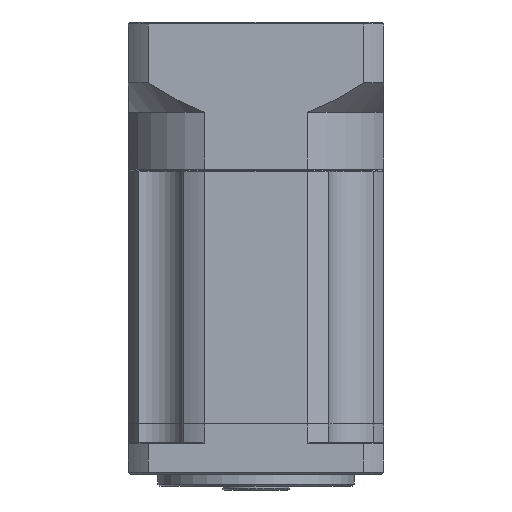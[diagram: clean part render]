
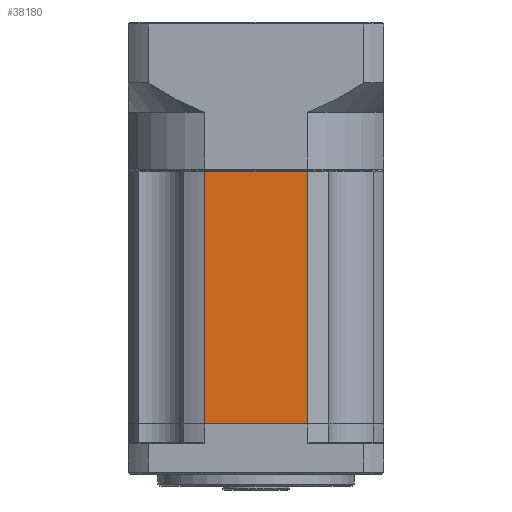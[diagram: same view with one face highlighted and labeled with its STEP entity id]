
A CAD part, front view. The second image highlights one B-rep face of the part: STEP entity #38180.
In plain terms, the highlighted planar face has unit normal (0, -1, 0).
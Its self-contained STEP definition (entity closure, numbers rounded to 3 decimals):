
#1851 = CARTESIAN_POINT ( 'NONE',  ( -43.944, -7.96, -74.343 ) ) ;
#4831 = CARTESIAN_POINT ( 'NONE',  ( -43.944, -7.96, -74.343 ) ) ;
#24134 = CARTESIAN_POINT ( 'NONE',  ( -43.944, -7.96, -10.243 ) ) ;
#30450 = EDGE_LOOP ( 'NONE', ( #102664, #110833, #32317, #98007 ) ) ;
#31893 = LINE ( 'NONE', #1851, #50291 ) ;
#32317 = ORIENTED_EDGE ( 'NONE', *, *, #75244, .T. ) ;
#32559 = VERTEX_POINT ( 'NONE', #24134 ) ;
#33729 = VECTOR ( 'NONE', #69071, 1000. ) ;
#35659 = DIRECTION ( 'NONE',  ( 0., 1., 0. ) ) ;
#37340 = AXIS2_PLACEMENT_3D ( 'NONE', #89879, #35659, #88714 ) ;
#38180 = ADVANCED_FACE ( 'NONE', ( #81317 ), #108138, .F. ) ;
#40418 = CARTESIAN_POINT ( 'NONE',  ( -69.924, -7.96, -10.243 ) ) ;
#42199 = DIRECTION ( 'NONE',  ( 0., 0., -1. ) ) ;
#48339 = DIRECTION ( 'NONE',  ( -1., 0., 0. ) ) ;
#50291 = VECTOR ( 'NONE', #83816, 1000. ) ;
#51920 = VERTEX_POINT ( 'NONE', #59660 ) ;
#54396 = VECTOR ( 'NONE', #48339, 1000. ) ;
#59660 = CARTESIAN_POINT ( 'NONE',  ( -69.924, -7.96, -10.243 ) ) ;
#62066 = EDGE_CURVE ( 'NONE', #32559, #111360, #107094, .T. ) ;
#62432 = EDGE_CURVE ( 'NONE', #98520, #111360, #31893, .T. ) ;
#69071 = DIRECTION ( 'NONE',  ( 0., 0., -1. ) ) ;
#75244 = EDGE_CURVE ( 'NONE', #51920, #98520, #81912, .T. ) ;
#79409 = CARTESIAN_POINT ( 'NONE',  ( -43.944, -7.96, -10.043 ) ) ;
#81317 = FACE_OUTER_BOUND ( 'NONE', #30450, .T. ) ;
#81912 = LINE ( 'NONE', #86844, #33729 ) ;
#83816 = DIRECTION ( 'NONE',  ( 1., 0., 0. ) ) ;
#86844 = CARTESIAN_POINT ( 'NONE',  ( -69.924, -7.96, -10.043 ) ) ;
#88714 = DIRECTION ( 'NONE',  ( 0., 0., 1. ) ) ;
#89879 = CARTESIAN_POINT ( 'NONE',  ( -43.944, -7.96, -10.043 ) ) ;
#92627 = CARTESIAN_POINT ( 'NONE',  ( -69.924, -7.96, -74.343 ) ) ;
#98007 = ORIENTED_EDGE ( 'NONE', *, *, #62432, .T. ) ;
#98520 = VERTEX_POINT ( 'NONE', #92627 ) ;
#101215 = LINE ( 'NONE', #40418, #54396 ) ;
#102664 = ORIENTED_EDGE ( 'NONE', *, *, #62066, .F. ) ;
#107094 = LINE ( 'NONE', #79409, #115633 ) ;
#108138 = PLANE ( 'NONE',  #37340 ) ;
#110833 = ORIENTED_EDGE ( 'NONE', *, *, #116808, .T. ) ;
#111360 = VERTEX_POINT ( 'NONE', #4831 ) ;
#115633 = VECTOR ( 'NONE', #42199, 1000. ) ;
#116808 = EDGE_CURVE ( 'NONE', #32559, #51920, #101215, .T. ) ;
